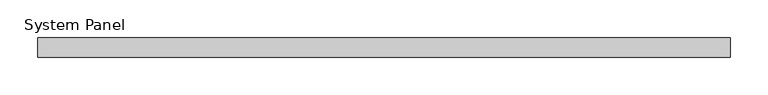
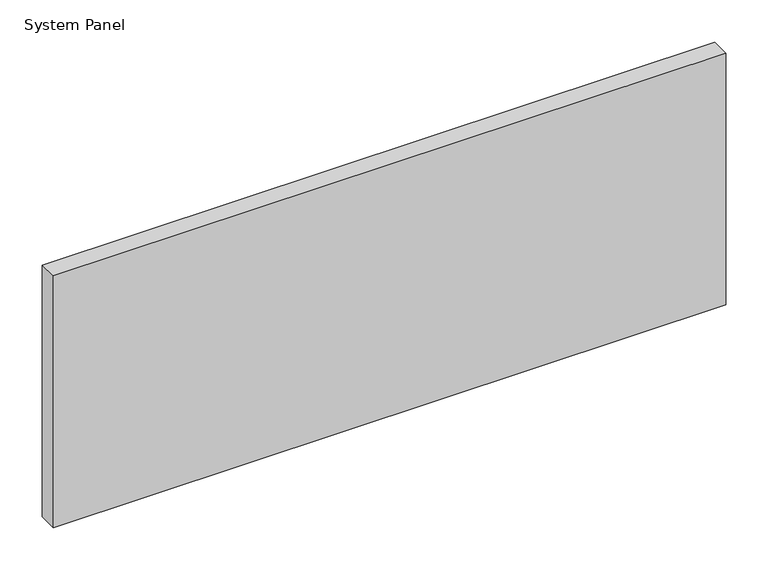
"""IFC4 building model written with IfcOpenShell, lengths in millimetres: plate geometry, System Panel : Glazed - ACMP (AL-1)."""

from ifc_helpers import new_model, si_unit, origin, origin_with_axes, place, context, project, spatial, polyline, outline, extrude, source, transform, mapped, element, save


def system_panel_c27e98ea(model_context):
    return source(origin(), model_context, "Body", "SweptSolid", [
        extrude(outline(polyline([(457.2, 0.0), (-457.2, 0.0), (-457.2, 25.4), (457.2, 25.4), (457.2, 0.0)])), origin_with_axes(), (0.0, 0.0, 1.0), 361.95),
    ])


if __name__ == "__main__":
    model = new_model("IFC4")
    model_context = context("Model", 3, world=origin())
    ifc_project = project(units=[si_unit("LENGTHUNIT", "METRE", prefix="MILLI")], contexts=[model_context])
    site = spatial("IfcSite", under=ifc_project)
    building = spatial("IfcBuilding", under=site)
    placement = place(None, origin())
    system_panel_shape = system_panel_c27e98ea(model_context)
    element("IfcPlate", 1, ObjectType="System Panel : Glazed - ACMP (AL-1)", at=placement, inside=building, context=model_context, shape_type="MappedRepresentation", body=[
        mapped(system_panel_shape, transform((0.0, 0.0, 0.0), x_axis=(1.0, 0.0, 0.0), y_axis=(0.0, 1.0, 0.0), z_axis=(0.0, 0.0, 1.0))),
    ])
    save(model, "model.ifc")
